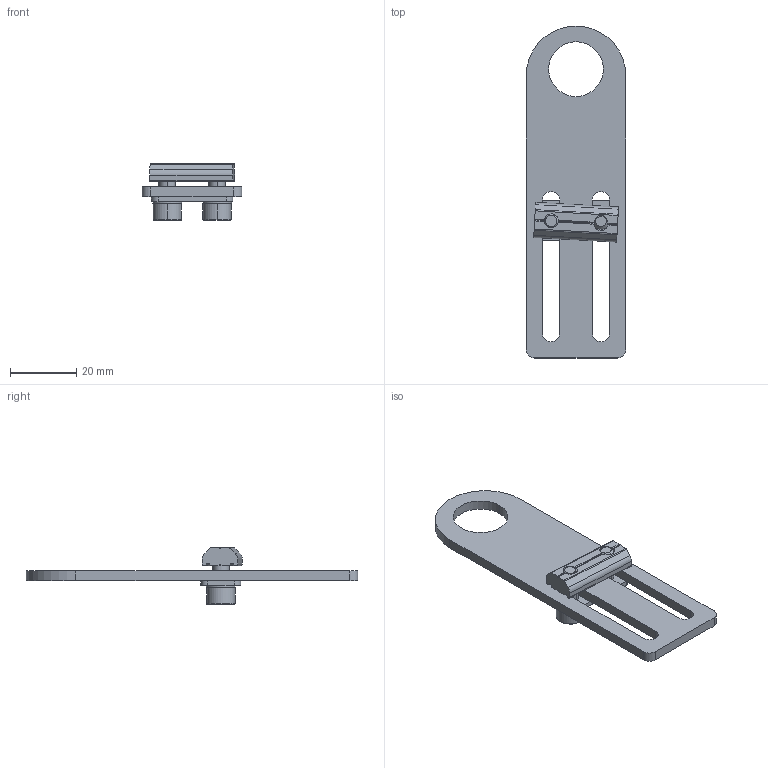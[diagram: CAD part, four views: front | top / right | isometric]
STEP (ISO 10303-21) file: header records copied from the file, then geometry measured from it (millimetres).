
FILE_DESCRIPTION (( 'STEP AP214' ), '1' );
FILE_NAME ('SMBE6-1640.STEP', '2019-11-06T02:05:58', ( '微软用户' ), ( '微软中国' ), 'SwSTEP 2.0', 'SolidWorks 2016', '' );
FILE_SCHEMA (( 'AUTOMOTIVE_DESIGN' ));
Length unit declared in the file: millimetre
Products named in the file (1): SMBE6-1640
Bounding box: 30 x 100 x 17 mm (x, y, z)
Volume: 9114.7 mm3; surface area: 8684.5 mm2
Topology: 7 solids, 7 shells, 510 faces, 1476 edges, 976 vertices
Faces by surface type: plane 447, cylinder 55, cone 4, bspline 4
Entity records: 22940 total; most frequent: CARTESIAN_POINT 3425, ORIENTED_EDGE 2952, DIRECTION 2924, EDGE_CURVE 1476, AXIS2_PLACEMENT_3D 981, VERTEX_POINT 976, VECTOR 962, LINE 962
